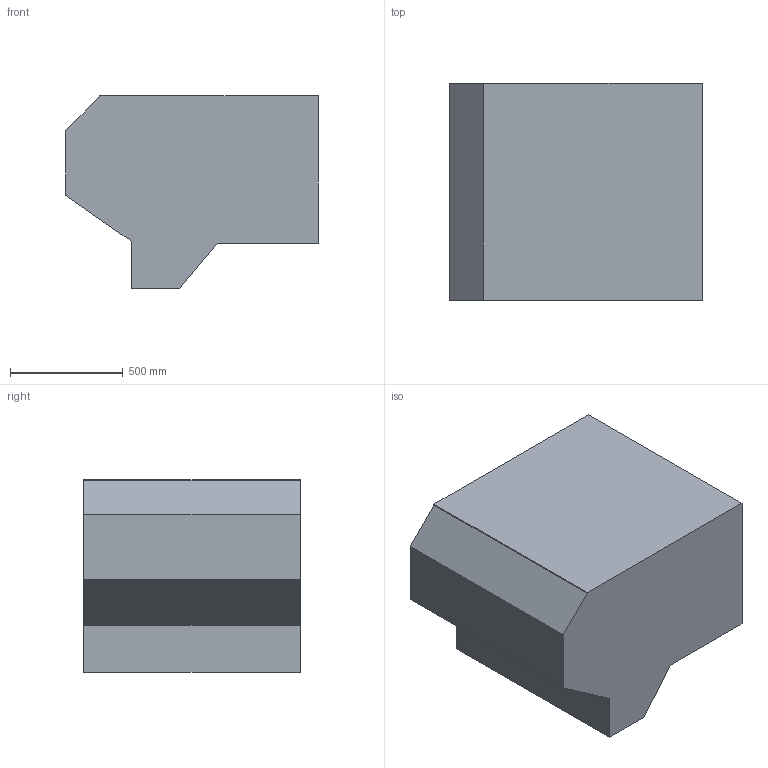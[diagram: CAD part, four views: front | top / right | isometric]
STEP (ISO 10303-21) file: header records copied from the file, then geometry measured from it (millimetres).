
FILE_DESCRIPTION((''),'2;1');
FILE_NAME('252-06-22_MCA-MORFEO-HOUSING','2025-11-03T14:08:29',('muench'),(''),'CREO PARAMETRIC BY PTC INC, 2021184','CREO PARAMETRIC BY PTC INC, 2021184','');
FILE_SCHEMA(('AUTOMOTIVE_DESIGN { 1 0 10303 214 1 1 1 1 }'));
Length unit declared in the file: millimetre
Products named in the file (1): 252-06-22_MCA-MORFEO-HOUSING
Bounding box: 1120 x 960 x 855 mm (x, y, z)
Volume: 718910665.6 mm3; surface area: 4969434.2 mm2
Topology: 1 solids, 1 shells, 12 faces, 30 edges, 20 vertices
Faces by surface type: plane 12
Entity records: 567 total; most frequent: COLOUR_RGB 65, CARTESIAN_POINT 64, ORIENTED_EDGE 60, DIRECTION 54, PRESENTATION_STYLE_ASSIGNMENT 31, STYLED_ITEM 31, VECTOR 30, LINE 30
